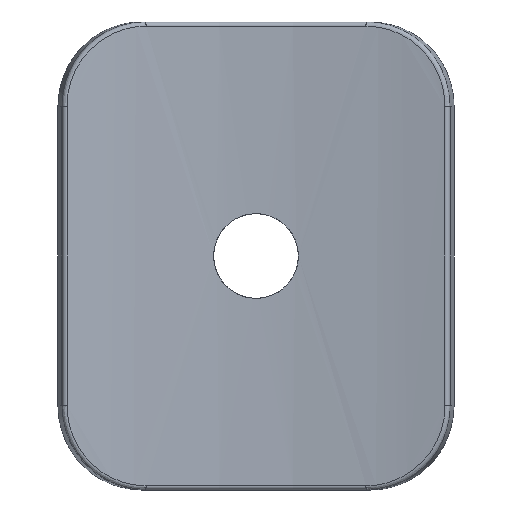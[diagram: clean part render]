
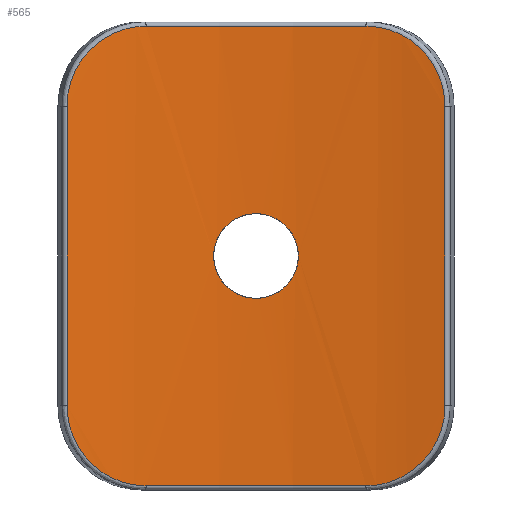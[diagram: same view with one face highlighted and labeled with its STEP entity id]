
A CAD part, front view. The second image highlights one B-rep face of the part: STEP entity #565.
In plain terms, the highlighted cylindrical face has radius 200 mm (diameter 400 mm), a partial arc.
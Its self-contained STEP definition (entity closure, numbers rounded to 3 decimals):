
#15=FACE_BOUND('',#138,.T.);
#43=CYLINDRICAL_SURFACE('',#614,200.);
#58=CIRCLE('',#601,200.);
#63=CIRCLE('',#608,200.);
#98=FACE_OUTER_BOUND('',#137,.T.);
#137=EDGE_LOOP('',(#404,#405,#406,#407,#408,#409,#410,#411));
#138=EDGE_LOOP('',(#412));
#176=LINE('',#994,#193);
#178=LINE('',#1110,#195);
#193=VECTOR('',#665,65.738);
#195=VECTOR('',#683,65.738);
#208=B_SPLINE_CURVE_WITH_KNOTS('',3,(#862,#863,#864,#865,#866,#867,#868,
#869,#870,#871,#872,#873,#874,#875,#876,#877,#878,#879,#880,#881,#882,#883,
#884,#885,#886,#887,#888,#889,#890,#891,#892,#893,#894,#895,#896,#897),
 .UNSPECIFIED.,.T.,.F.,(4,2,2,2,2,2,2,2,2,2,2,2,2,2,2,2,2,4),(0.,0.37,
0.727,1.097,1.455,1.825,2.183,
2.553,2.911,3.281,3.64,4.013,
4.372,4.745,5.104,5.477,5.677,
5.872),.UNSPECIFIED.);
#211=B_SPLINE_CURVE_WITH_KNOTS('',3,(#982,#983,#984,#985,#986,#987,#988),
 .UNSPECIFIED.,.F.,.F.,(4,1,1,1,4),(0.,0.795,1.193,
1.988,2.783),.UNSPECIFIED.);
#213=B_SPLINE_CURVE_WITH_KNOTS('',3,(#1040,#1041,#1042,#1043,#1044,#1045,
#1046),.UNSPECIFIED.,.F.,.F.,(4,1,1,1,4),(0.,0.795,1.59,
1.988,2.783),.UNSPECIFIED.);
#215=B_SPLINE_CURVE_WITH_KNOTS('',3,(#1098,#1099,#1100,#1101,#1102,#1103,
#1104),.UNSPECIFIED.,.F.,.F.,(4,1,1,1,4),(0.,0.795,
1.193,1.988,2.783),.UNSPECIFIED.);
#217=B_SPLINE_CURVE_WITH_KNOTS('',3,(#1156,#1157,#1158,#1159,#1160,#1161,
#1162),.UNSPECIFIED.,.F.,.F.,(4,1,1,1,4),(0.,0.795,
1.193,1.988,2.783),.UNSPECIFIED.);
#232=VERTEX_POINT('',#861);
#234=VERTEX_POINT('',#969);
#237=VERTEX_POINT('',#980);
#238=VERTEX_POINT('',#990);
#240=VERTEX_POINT('',#1030);
#242=VERTEX_POINT('',#1048);
#244=VERTEX_POINT('',#1088);
#246=VERTEX_POINT('',#1106);
#248=VERTEX_POINT('',#1146);
#278=EDGE_CURVE('',#232,#232,#208,.T.);
#284=EDGE_CURVE('',#237,#234,#211,.T.);
#287=EDGE_CURVE('',#234,#238,#176,.T.);
#290=EDGE_CURVE('',#238,#240,#213,.T.);
#293=EDGE_CURVE('',#240,#242,#58,.T.);
#296=EDGE_CURVE('',#242,#244,#215,.T.);
#299=EDGE_CURVE('',#244,#246,#178,.T.);
#302=EDGE_CURVE('',#246,#248,#217,.T.);
#304=EDGE_CURVE('',#248,#237,#63,.T.);
#404=ORIENTED_EDGE('',*,*,#284,.F.);
#405=ORIENTED_EDGE('',*,*,#304,.F.);
#406=ORIENTED_EDGE('',*,*,#302,.F.);
#407=ORIENTED_EDGE('',*,*,#299,.F.);
#408=ORIENTED_EDGE('',*,*,#296,.F.);
#409=ORIENTED_EDGE('',*,*,#293,.F.);
#410=ORIENTED_EDGE('',*,*,#290,.F.);
#411=ORIENTED_EDGE('',*,*,#287,.F.);
#412=ORIENTED_EDGE('',*,*,#278,.T.);
#565=ADVANCED_FACE('',(#98,#15),#43,.F.);
#601=AXIS2_PLACEMENT_3D('',#1052,#674,#675);
#608=AXIS2_PLACEMENT_3D('',#1165,#690,#691);
#614=AXIS2_PLACEMENT_3D('',#1196,#708,#709);
#665=DIRECTION('',(0.,0.,-1.));
#674=DIRECTION('center_axis',(0.,0.,1.));
#675=DIRECTION('ref_axis',(0.,1.,0.));
#683=DIRECTION('',(0.,0.,1.));
#690=DIRECTION('center_axis',(0.,0.,-1.));
#691=DIRECTION('ref_axis',(0.,1.,0.));
#708=DIRECTION('center_axis',(0.,0.,1.));
#709=DIRECTION('ref_axis',(0.213,0.977,0.));
#861=CARTESIAN_POINT('',(9.316,-0.217,0.));
#862=CARTESIAN_POINT('Ctrl Pts',(6.587,-0.108,6.588));
#863=CARTESIAN_POINT('Ctrl Pts',(7.458,-0.137,5.716));
#864=CARTESIAN_POINT('Ctrl Pts',(8.149,-0.166,4.679));
#865=CARTESIAN_POINT('Ctrl Pts',(9.07,-0.205,2.437));
#866=CARTESIAN_POINT('Ctrl Pts',(9.307,-0.217,1.259));
#867=CARTESIAN_POINT('Ctrl Pts',(9.324,-0.217,-1.165));
#868=CARTESIAN_POINT('Ctrl Pts',(9.089,-0.206,-2.386));
#869=CARTESIAN_POINT('Ctrl Pts',(8.171,-0.166,-4.63));
#870=CARTESIAN_POINT('Ctrl Pts',(7.512,-0.139,-5.637));
#871=CARTESIAN_POINT('Ctrl Pts',(5.822,-0.083,-7.376));
#872=CARTESIAN_POINT('Ctrl Pts',(4.795,-0.054,-8.081));
#873=CARTESIAN_POINT('Ctrl Pts',(2.564,-0.013,-9.035));
#874=CARTESIAN_POINT('Ctrl Pts',(1.386,-0.001,
-9.289));
#875=CARTESIAN_POINT('Ctrl Pts',(-1.039,0.001,
-9.339));
#876=CARTESIAN_POINT('Ctrl Pts',(-2.264,-0.01,
-9.12));
#877=CARTESIAN_POINT('Ctrl Pts',(-4.522,-0.048,
-8.231));
#878=CARTESIAN_POINT('Ctrl Pts',(-5.539,-0.075,
-7.584));
#879=CARTESIAN_POINT('Ctrl Pts',(-7.302,-0.131,-5.915));
#880=CARTESIAN_POINT('Ctrl Pts',(-8.02,-0.16,-4.897));
#881=CARTESIAN_POINT('Ctrl Pts',(-9.003,-0.202,-2.676));
#882=CARTESIAN_POINT('Ctrl Pts',(-9.271,-0.215,-1.499));
#883=CARTESIAN_POINT('Ctrl Pts',(-9.351,-0.219,0.94));
#884=CARTESIAN_POINT('Ctrl Pts',(-9.142,-0.209,2.179));
#885=CARTESIAN_POINT('Ctrl Pts',(-8.267,-0.17,4.457));
#886=CARTESIAN_POINT('Ctrl Pts',(-7.627,-0.144,5.48));
#887=CARTESIAN_POINT('Ctrl Pts',(-5.963,-0.087,
7.265));
#888=CARTESIAN_POINT('Ctrl Pts',(-4.94,-0.058,
7.996));
#889=CARTESIAN_POINT('Ctrl Pts',(-2.711,-0.015,8.992));
#890=CARTESIAN_POINT('Ctrl Pts',(-1.535,-0.002,
9.266));
#891=CARTESIAN_POINT('Ctrl Pts',(0.903,0.002,
9.355));
#892=CARTESIAN_POINT('Ctrl Pts',(2.141,-0.008,
9.151));
#893=CARTESIAN_POINT('Ctrl Pts',(3.926,-0.038,8.474));
#894=CARTESIAN_POINT('Ctrl Pts',(4.522,-0.05,8.172));
#895=CARTESIAN_POINT('Ctrl Pts',(5.624,-0.078,7.455));
#896=CARTESIAN_POINT('Ctrl Pts',(6.128,-0.093,7.046));
#897=CARTESIAN_POINT('Ctrl Pts',(6.587,-0.108,6.588));
#969=CARTESIAN_POINT('',(41.593,-4.373,32.869));
#980=CARTESIAN_POINT('',(24.196,-1.469,50.568));
#982=CARTESIAN_POINT('Ctrl Pts',(24.196,-1.469,50.568));
#983=CARTESIAN_POINT('Ctrl Pts',(26.814,-1.788,50.568));
#984=CARTESIAN_POINT('Ctrl Pts',(30.728,-2.35,49.665));
#985=CARTESIAN_POINT('Ctrl Pts',(36.275,-3.297,46.125));
#986=CARTESIAN_POINT('Ctrl Pts',(40.417,-4.116,40.82));
#987=CARTESIAN_POINT('Ctrl Pts',(41.593,-4.373,35.519));
#988=CARTESIAN_POINT('Ctrl Pts',(41.593,-4.373,32.869));
#990=CARTESIAN_POINT('',(41.593,-4.373,-32.869));
#994=CARTESIAN_POINT('',(41.593,-4.373,0.));
#1030=CARTESIAN_POINT('',(24.196,-1.469,-50.568));
#1040=CARTESIAN_POINT('Ctrl Pts',(41.593,-4.373,-32.869));
#1041=CARTESIAN_POINT('Ctrl Pts',(41.593,-4.373,-35.519));
#1042=CARTESIAN_POINT('Ctrl Pts',(40.417,-4.116,-40.82));
#1043=CARTESIAN_POINT('Ctrl Pts',(36.275,-3.297,-46.125));
#1044=CARTESIAN_POINT('Ctrl Pts',(30.728,-2.35,-49.665));
#1045=CARTESIAN_POINT('Ctrl Pts',(26.814,-1.788,-50.568));
#1046=CARTESIAN_POINT('Ctrl Pts',(24.196,-1.469,-50.568));
#1048=CARTESIAN_POINT('',(-24.196,-1.469,-50.568));
#1052=CARTESIAN_POINT('Origin',(0.,-200.,-50.568));
#1088=CARTESIAN_POINT('',(-41.593,-4.373,-32.869));
#1098=CARTESIAN_POINT('Ctrl Pts',(-24.196,-1.469,-50.568));
#1099=CARTESIAN_POINT('Ctrl Pts',(-26.814,-1.788,-50.568));
#1100=CARTESIAN_POINT('Ctrl Pts',(-30.729,-2.35,-49.665));
#1101=CARTESIAN_POINT('Ctrl Pts',(-36.275,-3.297,-46.125));
#1102=CARTESIAN_POINT('Ctrl Pts',(-40.417,-4.116,-40.82));
#1103=CARTESIAN_POINT('Ctrl Pts',(-41.593,-4.373,-35.519));
#1104=CARTESIAN_POINT('Ctrl Pts',(-41.593,-4.373,-32.869));
#1106=CARTESIAN_POINT('',(-41.593,-4.373,32.869));
#1110=CARTESIAN_POINT('',(-41.593,-4.373,0.));
#1146=CARTESIAN_POINT('',(-24.196,-1.469,50.568));
#1156=CARTESIAN_POINT('Ctrl Pts',(-41.593,-4.373,32.869));
#1157=CARTESIAN_POINT('Ctrl Pts',(-41.593,-4.373,35.519));
#1158=CARTESIAN_POINT('Ctrl Pts',(-40.707,-4.18,39.49));
#1159=CARTESIAN_POINT('Ctrl Pts',(-37.243,-3.487,45.136));
#1160=CARTESIAN_POINT('Ctrl Pts',(-32.039,-2.538,49.368));
#1161=CARTESIAN_POINT('Ctrl Pts',(-26.814,-1.788,50.568));
#1162=CARTESIAN_POINT('Ctrl Pts',(-24.196,-1.469,50.568));
#1165=CARTESIAN_POINT('Origin',(0.,-200.,50.568));
#1196=CARTESIAN_POINT('Origin',(0.,-200.,0.));
